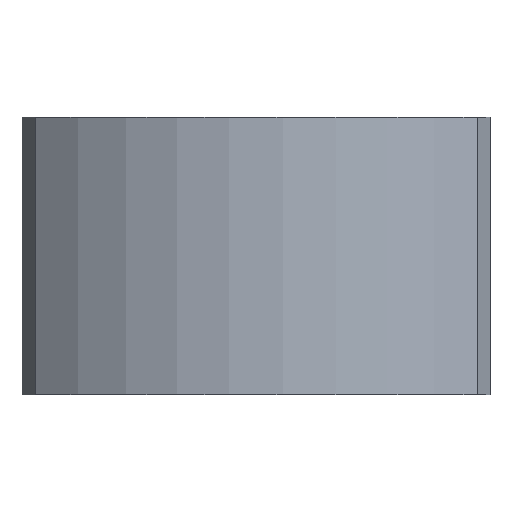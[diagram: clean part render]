
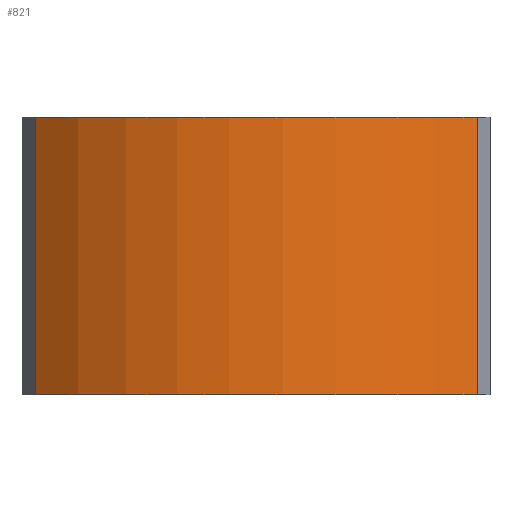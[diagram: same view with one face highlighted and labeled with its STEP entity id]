
A CAD part, front view. The second image highlights one B-rep face of the part: STEP entity #821.
In plain terms, the highlighted cylindrical face has radius 65 mm (diameter 130 mm), a partial arc.
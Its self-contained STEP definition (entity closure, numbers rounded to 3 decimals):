
#44 = PLANE('',#45);
#45 = AXIS2_PLACEMENT_3D('',#46,#47,#48);
#46 = CARTESIAN_POINT('',(0.,0.,-27.));
#47 = DIRECTION('',(0.,0.,1.));
#48 = DIRECTION('',(0.695,0.719,0.));
#72 = PLANE('',#73);
#73 = AXIS2_PLACEMENT_3D('',#74,#75,#76);
#74 = CARTESIAN_POINT('',(-43.081,-48.673,-152.605
    ));
#75 = DIRECTION('',(-0.872,-0.49,0.));
#76 = DIRECTION('',(0.,0.,1.));
#309 = PLANE('',#310);
#310 = AXIS2_PLACEMENT_3D('',#311,#312,#313);
#311 = CARTESIAN_POINT('',(0.,0.,27.));
#312 = DIRECTION('',(0.,0.,1.));
#313 = DIRECTION('',(0.695,0.719,0.));
#376 = PLANE('',#377);
#377 = AXIS2_PLACEMENT_3D('',#378,#379,#380);
#378 = CARTESIAN_POINT('',(45.55,-43.961,
    -152.605));
#379 = DIRECTION('',(0.885,-0.465,0.));
#380 = DIRECTION('',(0.,0.,-1.));
#614 = EDGE_CURVE('',#615,#617,#619,.T.);
#615 = VERTEX_POINT('',#616);
#616 = CARTESIAN_POINT('',(43.071,-48.681,-27.));
#617 = VERTEX_POINT('',#618);
#618 = CARTESIAN_POINT('',(-43.081,-48.673,-27.));
#619 = SURFACE_CURVE('',#620,(#625,#636),.PCURVE_S1.);
#620 = CIRCLE('',#621,65.);
#621 = AXIS2_PLACEMENT_3D('',#622,#623,#624);
#622 = CARTESIAN_POINT('',(0.,0.,-27.)
  );
#623 = DIRECTION('',(0.,0.,-1.));
#624 = DIRECTION('',(0.695,0.719,0.));
#625 = PCURVE('',#44,#626);
#626 = DEFINITIONAL_REPRESENTATION('',(#627),#635);
#627 = ( BOUNDED_CURVE() B_SPLINE_CURVE(2,(#628,#629,#630,#631,#632,#633
,#634),.UNSPECIFIED.,.T.,.F.) B_SPLINE_CURVE_WITH_KNOTS((1,2,2,2,2,1),(
    -2.094,0.,2.094,4.189,6.283,
8.378),.UNSPECIFIED.) CURVE() GEOMETRIC_REPRESENTATION_ITEM() 
RATIONAL_B_SPLINE_CURVE((1.,0.5,1.,0.5,1.,0.5,1.)) REPRESENTATION_ITEM(
  '') );
#628 = CARTESIAN_POINT('',(65.,0.));
#629 = CARTESIAN_POINT('',(65.,-112.583));
#630 = CARTESIAN_POINT('',(-32.5,-56.292));
#631 = CARTESIAN_POINT('',(-130.,0.));
#632 = CARTESIAN_POINT('',(-32.5,56.292));
#633 = CARTESIAN_POINT('',(65.,112.583));
#634 = CARTESIAN_POINT('',(65.,0.));
#635 = ( GEOMETRIC_REPRESENTATION_CONTEXT(2) 
PARAMETRIC_REPRESENTATION_CONTEXT() REPRESENTATION_CONTEXT('2D SPACE',''
  ) );
#636 = PCURVE('',#637,#642);
#637 = CYLINDRICAL_SURFACE('',#638,65.);
#638 = AXIS2_PLACEMENT_3D('',#639,#640,#641);
#639 = CARTESIAN_POINT('',(0.,0.,
    -152.605));
#640 = DIRECTION('',(0.,0.,1.));
#641 = DIRECTION('',(0.695,0.719,0.));
#642 = DEFINITIONAL_REPRESENTATION('',(#643),#647);
#643 = LINE('',#644,#645);
#644 = CARTESIAN_POINT('',(6.283,125.605));
#645 = VECTOR('',#646,1.);
#646 = DIRECTION('',(-1.,0.));
#647 = ( GEOMETRIC_REPRESENTATION_CONTEXT(2) 
PARAMETRIC_REPRESENTATION_CONTEXT() REPRESENTATION_CONTEXT('2D SPACE',''
  ) );
#724 = VERTEX_POINT('',#725);
#725 = CARTESIAN_POINT('',(-43.081,-48.673,27.));
#746 = EDGE_CURVE('',#747,#724,#749,.T.);
#747 = VERTEX_POINT('',#748);
#748 = CARTESIAN_POINT('',(43.071,-48.681,27.));
#749 = SURFACE_CURVE('',#750,(#755,#766),.PCURVE_S1.);
#750 = CIRCLE('',#751,65.);
#751 = AXIS2_PLACEMENT_3D('',#752,#753,#754);
#752 = CARTESIAN_POINT('',(0.,0.,27.));
#753 = DIRECTION('',(0.,0.,-1.));
#754 = DIRECTION('',(0.695,0.719,0.));
#755 = PCURVE('',#309,#756);
#756 = DEFINITIONAL_REPRESENTATION('',(#757),#765);
#757 = ( BOUNDED_CURVE() B_SPLINE_CURVE(2,(#758,#759,#760,#761,#762,#763
,#764),.UNSPECIFIED.,.T.,.F.) B_SPLINE_CURVE_WITH_KNOTS((1,2,2,2,2,1),(
    -2.094,0.,2.094,4.189,6.283,
8.378),.UNSPECIFIED.) CURVE() GEOMETRIC_REPRESENTATION_ITEM() 
RATIONAL_B_SPLINE_CURVE((1.,0.5,1.,0.5,1.,0.5,1.)) REPRESENTATION_ITEM(
  '') );
#758 = CARTESIAN_POINT('',(65.,0.));
#759 = CARTESIAN_POINT('',(65.,-112.583));
#760 = CARTESIAN_POINT('',(-32.5,-56.292));
#761 = CARTESIAN_POINT('',(-130.,0.));
#762 = CARTESIAN_POINT('',(-32.5,56.292));
#763 = CARTESIAN_POINT('',(65.,112.583));
#764 = CARTESIAN_POINT('',(65.,0.));
#765 = ( GEOMETRIC_REPRESENTATION_CONTEXT(2) 
PARAMETRIC_REPRESENTATION_CONTEXT() REPRESENTATION_CONTEXT('2D SPACE',''
  ) );
#766 = PCURVE('',#637,#767);
#767 = DEFINITIONAL_REPRESENTATION('',(#768),#772);
#768 = LINE('',#769,#770);
#769 = CARTESIAN_POINT('',(6.283,179.605));
#770 = VECTOR('',#771,1.);
#771 = DIRECTION('',(-1.,0.));
#772 = ( GEOMETRIC_REPRESENTATION_CONTEXT(2) 
PARAMETRIC_REPRESENTATION_CONTEXT() REPRESENTATION_CONTEXT('2D SPACE',''
  ) );
#821 = ADVANCED_FACE('',(#822),#637,.T.);
#822 = FACE_BOUND('',#823,.T.);
#823 = EDGE_LOOP('',(#824,#825,#846,#847));
#824 = ORIENTED_EDGE('',*,*,#746,.T.);
#825 = ORIENTED_EDGE('',*,*,#826,.T.);
#826 = EDGE_CURVE('',#724,#617,#827,.T.);
#827 = SURFACE_CURVE('',#828,(#832,#839),.PCURVE_S1.);
#828 = LINE('',#829,#830);
#829 = CARTESIAN_POINT('',(-43.081,-48.673,27.));
#830 = VECTOR('',#831,1.);
#831 = DIRECTION('',(0.,0.,-1.));
#832 = PCURVE('',#637,#833);
#833 = DEFINITIONAL_REPRESENTATION('',(#834),#838);
#834 = LINE('',#835,#836);
#835 = CARTESIAN_POINT('',(3.185,179.605));
#836 = VECTOR('',#837,1.);
#837 = DIRECTION('',(0.,-1.));
#838 = ( GEOMETRIC_REPRESENTATION_CONTEXT(2) 
PARAMETRIC_REPRESENTATION_CONTEXT() REPRESENTATION_CONTEXT('2D SPACE',''
  ) );
#839 = PCURVE('',#72,#840);
#840 = DEFINITIONAL_REPRESENTATION('',(#841),#845);
#841 = LINE('',#842,#843);
#842 = CARTESIAN_POINT('',(179.605,0.));
#843 = VECTOR('',#844,1.);
#844 = DIRECTION('',(-1.,0.));
#845 = ( GEOMETRIC_REPRESENTATION_CONTEXT(2) 
PARAMETRIC_REPRESENTATION_CONTEXT() REPRESENTATION_CONTEXT('2D SPACE',''
  ) );
#846 = ORIENTED_EDGE('',*,*,#614,.F.);
#847 = ORIENTED_EDGE('',*,*,#848,.T.);
#848 = EDGE_CURVE('',#615,#747,#849,.T.);
#849 = SURFACE_CURVE('',#850,(#854,#861),.PCURVE_S1.);
#850 = LINE('',#851,#852);
#851 = CARTESIAN_POINT('',(43.071,-48.681,-27.));
#852 = VECTOR('',#853,1.);
#853 = DIRECTION('',(0.,0.,1.));
#854 = PCURVE('',#637,#855);
#855 = DEFINITIONAL_REPRESENTATION('',(#856),#860);
#856 = LINE('',#857,#858);
#857 = CARTESIAN_POINT('',(4.634,125.605));
#858 = VECTOR('',#859,1.);
#859 = DIRECTION('',(0.,1.));
#860 = ( GEOMETRIC_REPRESENTATION_CONTEXT(2) 
PARAMETRIC_REPRESENTATION_CONTEXT() REPRESENTATION_CONTEXT('2D SPACE',''
  ) );
#861 = PCURVE('',#376,#862);
#862 = DEFINITIONAL_REPRESENTATION('',(#863),#867);
#863 = LINE('',#864,#865);
#864 = CARTESIAN_POINT('',(-125.605,-5.332));
#865 = VECTOR('',#866,1.);
#866 = DIRECTION('',(-1.,0.));
#867 = ( GEOMETRIC_REPRESENTATION_CONTEXT(2) 
PARAMETRIC_REPRESENTATION_CONTEXT() REPRESENTATION_CONTEXT('2D SPACE',''
  ) );
